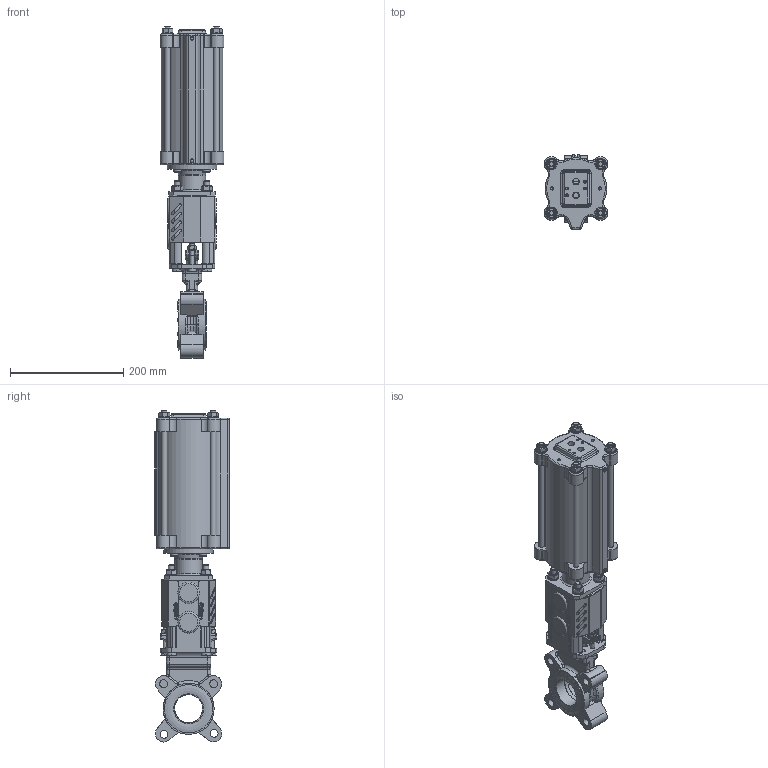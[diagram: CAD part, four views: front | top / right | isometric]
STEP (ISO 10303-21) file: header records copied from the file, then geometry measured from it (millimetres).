
FILE_DESCRIPTION(/* description */ (''),/* implementation_level */ '2;1');
FILE_NAME(/* name */ 'F:\Emir\3D-block special\WB\WB14-WFL-DN50-PN10-FRSC100-115.stp',/* time_stamp */ '2018-07-10T13:47:54+02:00',/* author */ ('emimus'),/* organization */ (''),/* preprocessor_version */ 'ST-DEVELOPER v17',/* originating_system */ 'Autodesk Inventor 2018',/* authorisation */ '');
FILE_SCHEMA (('CONFIG_CONTROL_DESIGN'));
Products named in the file (1): WB14-WFL-DN50-PN10-FRSC100-115-sat
Bounding box: 112.17 x 132 x 585.52 mm (x, y, z)
Volume: 1804604 mm3; surface area: 617321.5 mm2
Topology: 5 solids, 5 shells, 2169 faces, 5584 edges, 3493 vertices
Faces by surface type: plane 868, cylinder 554, cone 236, torus 228, bspline 189, sphere 94
Full cylindrical faces by diameter (mm): 3 x10, 4 x4, 4.134 x4, 4.2 x16, 4.5 x4, 4.917 x4, 6 x7, 8 x13, 8.376 x4, 8.4 x2, 9 x2, 10 x20, 10.106 x1, 10.5 x8, 11 x8, 11.445 x2, 13 x4, 13.835 x6, 14 x1, 14.376 x1, 15 x5, 16 x2, 20 x9, 20.15 x2, 22 x1, 24 x5, 26 x1, 26.4 x1, 28 x4, 35 x1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
Entity records: 75996 total; most frequent: CARTESIAN_POINT 23613, DIRECTION 11253, ORIENTED_EDGE 11072, EDGE_CURVE 5536, AXIS2_PLACEMENT_3D 4606, VERTEX_POINT 3493, EDGE_LOOP 2391, CIRCLE 2383
